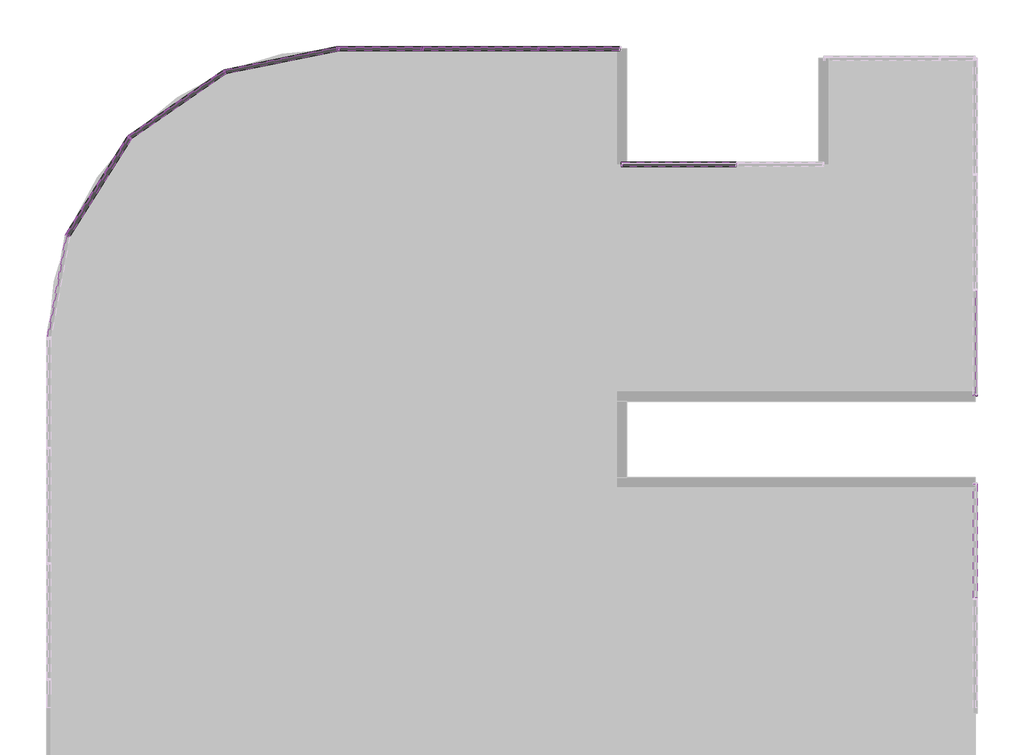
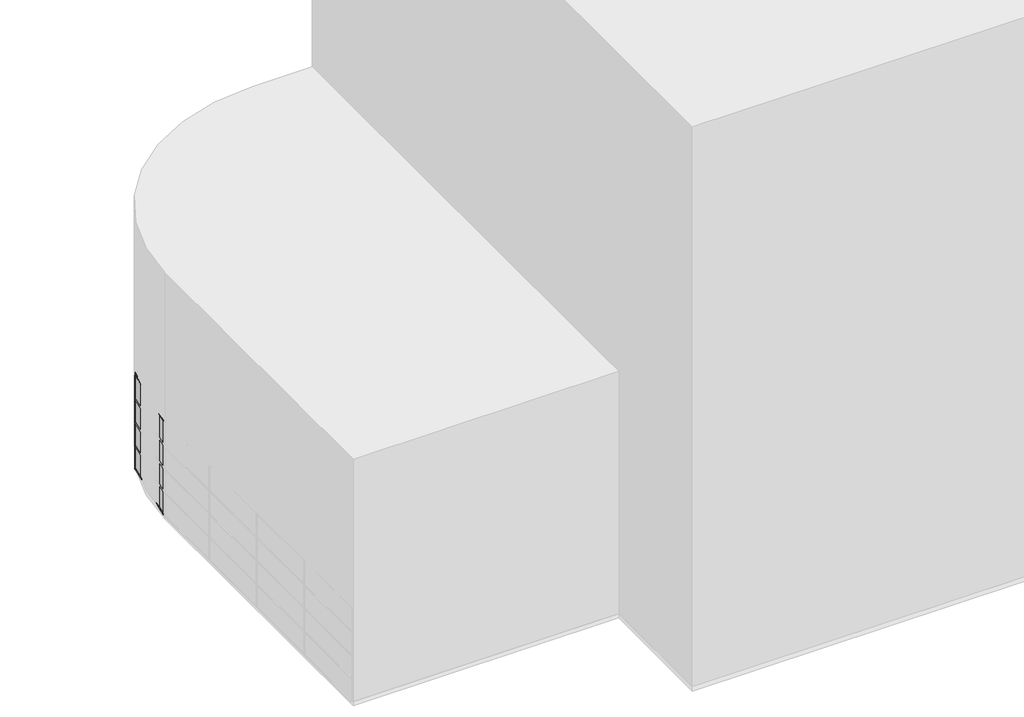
# One storey, part 3 of 4: 69 members, 35 plates.
"""IFC4 building model written with IfcOpenShell, lengths in millimetres."""

from ifc_helpers import new_model, si_unit, origin, place, context, project, spatial, transform, mapped, element, save
from components import rectangular_mullion_50_x_150mm_d99dc9be, rectangular_mullion_50_x_150mm_402ab136, rectangular_mullion_50_x_150mm_6588f46c, rectangular_mullion_50_x_150mm_c2546fd4, rectangular_mullion_50_x_150mm_55b3505a, rectangular_mullion_50_x_150mm_8b4cb4b7, rectangular_mullion_50_x_150mm_0b116d56, rectangular_mullion_50_x_150mm_6d604593, rectangular_mullion_50_x_150mm_99029072, rectangular_mullion_50_x_150mm_662445cf, rectangular_mullion_50_x_150mm_3491e2ff, rectangular_mullion_50_x_150mm_1010543a, rectangular_mullion_50_x_150mm_6b01f5a5, system_panel_glazed_ecbc047f, system_panel_glazed_459c9171, system_panel_glazed_8e9402eb, system_panel_glazed_5566c609, system_panel_glazed_6cd03a5f, system_panel_glazed_e890f31e, system_panel_glazed_ee025bb3, system_panel_glazed_18d93cd4, system_panel_glazed_0282c8a9, system_panel_glazed_e778729e, system_panel_glazed_01970cee, system_panel_glazed_f47374c1, system_panel_glazed_c3dc520e, system_panel_glazed_01c601c5

model = new_model("IFC4")

# Units and contexts
model_context = context("Model", 3, world=origin())
ifc_project = project(units=[si_unit("LENGTHUNIT", "METRE", prefix="MILLI")], contexts=[model_context])

# Site, building, storey
site = spatial("IfcSite", under=ifc_project)
building = spatial("IfcBuilding", under=site)
storey = spatial("IfcBuildingStorey", under=building, Name="Suteren", Elevation=0.0)

# Members
placement = place(None, origin())
rectangular_mullion_50_x_150mm_shape = rectangular_mullion_50_x_150mm_d99dc9be(model_context)
element("IfcMember", 1, ObjectType="Rectangular Mullion : 50 x 150mm", at=placement, inside=storey, context=model_context, shape_type="MappedRepresentation", body=[
    mapped(rectangular_mullion_50_x_150mm_shape, transform((-1587.173406, 8375.9839566, 2400.0), x_axis=(1.0, 0.0, 0.0), y_axis=(0.0, 1.0, 0.0), z_axis=(0.0, 0.0, 1.0))),
])
element("IfcMember", 2, ObjectType="Rectangular Mullion : 50 x 150mm", at=placement, inside=storey, context=model_context, shape_type="MappedRepresentation", body=[
    mapped(rectangular_mullion_50_x_150mm_shape, transform((-1587.173406, 8375.9839566, 3600.0), x_axis=(1.0, 0.0, 0.0), y_axis=(0.0, 1.0, 0.0), z_axis=(0.0, 0.0, 1.0))),
])
element("IfcMember", 3, ObjectType="Rectangular Mullion : 50 x 150mm", at=placement, inside=storey, context=model_context, shape_type="MappedRepresentation", body=[
    mapped(rectangular_mullion_50_x_150mm_shape, transform((-1587.173406, 8375.9839566, 4800.0), x_axis=(1.0, 0.0, 0.0), y_axis=(0.0, 1.0, 0.0), z_axis=(0.0, 0.0, 1.0))),
])
element("IfcMember", 4, ObjectType="Rectangular Mullion : 50 x 150mm", at=placement, inside=storey, context=model_context, shape_type="MappedRepresentation", body=[
    mapped(rectangular_mullion_50_x_150mm_shape, transform((-1587.173406, 8375.9839566, 1200.0), x_axis=(1.0, 0.0, 0.0), y_axis=(0.0, 1.0, 0.0), z_axis=(0.0, 0.0, 1.0))),
])
rectangular_mullion_50_x_150mm_2_shape = rectangular_mullion_50_x_150mm_402ab136(model_context)
element("IfcMember", 5, ObjectType="Rectangular Mullion : 50 x 150mm", at=placement, inside=storey, context=model_context, shape_type="MappedRepresentation", body=[
    mapped(rectangular_mullion_50_x_150mm_2_shape, transform((-1612.173406, 8375.9839566, 0.0), x_axis=(0.0, 0.0, -1.0), y_axis=(0.0, 1.0, 0.0), z_axis=(1.0, 0.0, 0.0))),
])
rectangular_mullion_50_x_150mm_3_shape = rectangular_mullion_50_x_150mm_6588f46c(model_context)
element("IfcMember", 6, ObjectType="Rectangular Mullion : 50 x 150mm", at=placement, inside=storey, context=model_context, shape_type="MappedRepresentation", body=[
    mapped(rectangular_mullion_50_x_150mm_3_shape, transform((13503.2660975, -3624.0160434, 4800.0), x_axis=(0.0, -1.0, 0.0), y_axis=(1.0, 0.0, 0.0), z_axis=(0.0, 0.0, 1.0))),
])
element("IfcMember", 7, ObjectType="Rectangular Mullion : 50 x 150mm", at=placement, inside=storey, context=model_context, shape_type="MappedRepresentation", body=[
    mapped(rectangular_mullion_50_x_150mm_3_shape, transform((13503.2660975, -3624.0160434, 3600.0), x_axis=(0.0, -1.0, 0.0), y_axis=(1.0, 0.0, 0.0), z_axis=(0.0, 0.0, 1.0))),
])
element("IfcMember", 8, ObjectType="Rectangular Mullion : 50 x 150mm", at=placement, inside=storey, context=model_context, shape_type="MappedRepresentation", body=[
    mapped(rectangular_mullion_50_x_150mm_3_shape, transform((13503.2660975, -3624.0160434, 2400.0), x_axis=(0.0, -1.0, 0.0), y_axis=(1.0, 0.0, 0.0), z_axis=(0.0, 0.0, 1.0))),
])
element("IfcMember", 9, ObjectType="Rectangular Mullion : 50 x 150mm", at=placement, inside=storey, context=model_context, shape_type="MappedRepresentation", body=[
    mapped(rectangular_mullion_50_x_150mm_3_shape, transform((-5587.173406, 8375.9839566, 2400.0), x_axis=(1.0, 0.0, 0.0), y_axis=(0.0, 1.0, 0.0), z_axis=(0.0, 0.0, 1.0))),
])
element("IfcMember", 10, ObjectType="Rectangular Mullion : 50 x 150mm", at=placement, inside=storey, context=model_context, shape_type="MappedRepresentation", body=[
    mapped(rectangular_mullion_50_x_150mm_3_shape, transform((-5587.173406, 8375.9839566, 3600.0), x_axis=(1.0, 0.0, 0.0), y_axis=(0.0, 1.0, 0.0), z_axis=(0.0, 0.0, 1.0))),
])
element("IfcMember", 11, ObjectType="Rectangular Mullion : 50 x 150mm", at=placement, inside=storey, context=model_context, shape_type="MappedRepresentation", body=[
    mapped(rectangular_mullion_50_x_150mm_3_shape, transform((-5587.173406, 8375.9839566, 4800.0), x_axis=(1.0, 0.0, 0.0), y_axis=(0.0, 1.0, 0.0), z_axis=(0.0, 0.0, 1.0))),
])
element("IfcMember", 12, ObjectType="Rectangular Mullion : 50 x 150mm", at=placement, inside=storey, context=model_context, shape_type="MappedRepresentation", body=[
    mapped(rectangular_mullion_50_x_150mm_3_shape, transform((-8496.7339025, 8375.9839566, 2400.0), x_axis=(0.9797958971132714, 0.1999999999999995, 0.0), y_axis=(-0.1999999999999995, 0.9797958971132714, 0.0), z_axis=(0.0, 0.0, 1.0))),
])
element("IfcMember", 13, ObjectType="Rectangular Mullion : 50 x 150mm", at=placement, inside=storey, context=model_context, shape_type="MappedRepresentation", body=[
    mapped(rectangular_mullion_50_x_150mm_3_shape, transform((-8496.7339025, 8375.9839566, 3600.0), x_axis=(0.9797958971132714, 0.1999999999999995, 0.0), y_axis=(-0.1999999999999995, 0.9797958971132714, 0.0), z_axis=(0.0, 0.0, 1.0))),
])
element("IfcMember", 14, ObjectType="Rectangular Mullion : 50 x 150mm", at=placement, inside=storey, context=model_context, shape_type="MappedRepresentation", body=[
    mapped(rectangular_mullion_50_x_150mm_3_shape, transform((-8496.7339025, 8375.9839566, 4800.0), x_axis=(0.9797958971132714, 0.1999999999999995, 0.0), y_axis=(-0.1999999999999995, 0.9797958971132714, 0.0), z_axis=(0.0, 0.0, 1.0))),
])
element("IfcMember", 15, ObjectType="Rectangular Mullion : 50 x 150mm", at=placement, inside=storey, context=model_context, shape_type="MappedRepresentation", body=[
    mapped(rectangular_mullion_50_x_150mm_3_shape, transform((13503.2660975, -3624.0160434, 1200.0), x_axis=(0.0, -1.0, 0.0), y_axis=(1.0, 0.0, 0.0), z_axis=(0.0, 0.0, 1.0))),
])
element("IfcMember", 16, ObjectType="Rectangular Mullion : 50 x 150mm", at=placement, inside=storey, context=model_context, shape_type="MappedRepresentation", body=[
    mapped(rectangular_mullion_50_x_150mm_3_shape, transform((-5587.173406, 8375.9839566, 1200.0), x_axis=(1.0, 0.0, 0.0), y_axis=(0.0, 1.0, 0.0), z_axis=(0.0, 0.0, 1.0))),
])
element("IfcMember", 17, ObjectType="Rectangular Mullion : 50 x 150mm", at=placement, inside=storey, context=model_context, shape_type="MappedRepresentation", body=[
    mapped(rectangular_mullion_50_x_150mm_3_shape, transform((-8496.7339025, 8375.9839566, 1200.0), x_axis=(0.9797958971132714, 0.1999999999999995, 0.0), y_axis=(-0.1999999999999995, 0.9797958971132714, 0.0), z_axis=(0.0, 0.0, 1.0))),
])
rectangular_mullion_50_x_150mm_4_shape = rectangular_mullion_50_x_150mm_c2546fd4(model_context)
element("IfcMember", 18, ObjectType="Rectangular Mullion : 50 x 150mm", at=placement, inside=storey, context=model_context, shape_type="MappedRepresentation", body=[
    mapped(rectangular_mullion_50_x_150mm_4_shape, transform((13503.2660975, -6674.0160434, 3600.0), x_axis=(0.0, 0.0, 1.0), y_axis=(1.0, 0.0, 0.0), z_axis=(0.0, 1.0, 0.0))),
])
element("IfcMember", 19, ObjectType="Rectangular Mullion : 50 x 150mm", at=placement, inside=storey, context=model_context, shape_type="MappedRepresentation", body=[
    mapped(rectangular_mullion_50_x_150mm_4_shape, transform((-5537.173406, 8375.9839566, 1200.0), x_axis=(0.0, 0.0, 1.0), y_axis=(0.0, 1.0, 0.0), z_axis=(-1.0, 0.0, 0.0))),
])
element("IfcMember", 20, ObjectType="Rectangular Mullion : 50 x 150mm", at=placement, inside=storey, context=model_context, shape_type="MappedRepresentation", body=[
    mapped(rectangular_mullion_50_x_150mm_4_shape, transform((-5537.173406, 8375.9839566, 2400.0), x_axis=(0.0, 0.0, 1.0), y_axis=(0.0, 1.0, 0.0), z_axis=(-1.0, 0.0, 0.0))),
])
element("IfcMember", 21, ObjectType="Rectangular Mullion : 50 x 150mm", at=placement, inside=storey, context=model_context, shape_type="MappedRepresentation", body=[
    mapped(rectangular_mullion_50_x_150mm_4_shape, transform((-5537.173406, 8375.9839566, 3600.0), x_axis=(0.0, 0.0, 1.0), y_axis=(0.0, 1.0, 0.0), z_axis=(-1.0, 0.0, 0.0))),
])
element("IfcMember", 22, ObjectType="Rectangular Mullion : 50 x 150mm", at=placement, inside=storey, context=model_context, shape_type="MappedRepresentation", body=[
    mapped(rectangular_mullion_50_x_150mm_4_shape, transform((1328.419219, 4375.9839566, 1200.0), x_axis=(0.0, 0.0, 1.0), y_axis=(0.0, 1.0, 0.0), z_axis=(-1.0, 0.0, 0.0))),
])
element("IfcMember", 23, ObjectType="Rectangular Mullion : 50 x 150mm", at=placement, inside=storey, context=model_context, shape_type="MappedRepresentation", body=[
    mapped(rectangular_mullion_50_x_150mm_4_shape, transform((1328.419219, 4375.9839566, 2400.0), x_axis=(0.0, 0.0, 1.0), y_axis=(0.0, 1.0, 0.0), z_axis=(-1.0, 0.0, 0.0))),
])
element("IfcMember", 24, ObjectType="Rectangular Mullion : 50 x 150mm", at=placement, inside=storey, context=model_context, shape_type="MappedRepresentation", body=[
    mapped(rectangular_mullion_50_x_150mm_4_shape, transform((1328.419219, 4375.9839566, 3600.0), x_axis=(0.0, 0.0, 1.0), y_axis=(0.0, 1.0, 0.0), z_axis=(-1.0, 0.0, 0.0))),
])
rectangular_mullion_50_x_150mm_5_shape = rectangular_mullion_50_x_150mm_55b3505a(model_context)
element("IfcMember", 25, ObjectType="Rectangular Mullion : 50 x 150mm", at=placement, inside=storey, context=model_context, shape_type="MappedRepresentation", body=[
    mapped(rectangular_mullion_50_x_150mm_5_shape, transform((13503.2660975, -3574.0160434, 0.0), x_axis=(0.0, 0.0, -1.0), y_axis=(1.0, 0.0, 0.0), z_axis=(0.0, -1.0, 0.0))),
])
element("IfcMember", 26, ObjectType="Rectangular Mullion : 50 x 150mm", at=placement, inside=storey, context=model_context, shape_type="MappedRepresentation", body=[
    mapped(rectangular_mullion_50_x_150mm_3_shape, transform((-5587.173406, 8375.9839566, 1200.0), x_axis=(-1.0, 0.0, 0.0), y_axis=(0.0, 1.0, 0.0), z_axis=(0.0, 0.0, -1.0))),
])
element("IfcMember", 27, ObjectType="Rectangular Mullion : 50 x 150mm", at=placement, inside=storey, context=model_context, shape_type="MappedRepresentation", body=[
    mapped(rectangular_mullion_50_x_150mm_3_shape, transform((-5587.173406, 8375.9839566, 2400.0), x_axis=(-1.0, 0.0, 0.0), y_axis=(0.0, 1.0, 0.0), z_axis=(0.0, 0.0, -1.0))),
])
element("IfcMember", 28, ObjectType="Rectangular Mullion : 50 x 150mm", at=placement, inside=storey, context=model_context, shape_type="MappedRepresentation", body=[
    mapped(rectangular_mullion_50_x_150mm_3_shape, transform((-5587.173406, 8375.9839566, 3600.0), x_axis=(-1.0, 0.0, 0.0), y_axis=(0.0, 1.0, 0.0), z_axis=(0.0, 0.0, -1.0))),
])
element("IfcMember", 29, ObjectType="Rectangular Mullion : 50 x 150mm", at=placement, inside=storey, context=model_context, shape_type="MappedRepresentation", body=[
    mapped(rectangular_mullion_50_x_150mm_3_shape, transform((1278.419219, 4375.9839566, 1200.0), x_axis=(-1.0, 0.0, 0.0), y_axis=(0.0, 1.0, 0.0), z_axis=(0.0, 0.0, -1.0))),
])
element("IfcMember", 30, ObjectType="Rectangular Mullion : 50 x 150mm", at=placement, inside=storey, context=model_context, shape_type="MappedRepresentation", body=[
    mapped(rectangular_mullion_50_x_150mm_3_shape, transform((1278.419219, 4375.9839566, 2400.0), x_axis=(-1.0, 0.0, 0.0), y_axis=(0.0, 1.0, 0.0), z_axis=(0.0, 0.0, -1.0))),
])
element("IfcMember", 31, ObjectType="Rectangular Mullion : 50 x 150mm", at=placement, inside=storey, context=model_context, shape_type="MappedRepresentation", body=[
    mapped(rectangular_mullion_50_x_150mm_3_shape, transform((1278.419219, 4375.9839566, 3600.0), x_axis=(-1.0, 0.0, 0.0), y_axis=(0.0, 1.0, 0.0), z_axis=(0.0, 0.0, -1.0))),
])
element("IfcMember", 32, ObjectType="Rectangular Mullion : 50 x 150mm", at=placement, inside=storey, context=model_context, shape_type="MappedRepresentation", body=[
    mapped(rectangular_mullion_50_x_150mm_3_shape, transform((-8496.7339025, 8375.9839566, 1200.0), x_axis=(-1.0, 0.0, 0.0), y_axis=(0.0, 1.0, 0.0), z_axis=(0.0, 0.0, -1.0))),
])
element("IfcMember", 33, ObjectType="Rectangular Mullion : 50 x 150mm", at=placement, inside=storey, context=model_context, shape_type="MappedRepresentation", body=[
    mapped(rectangular_mullion_50_x_150mm_3_shape, transform((-8496.7339025, 8375.9839566, 2400.0), x_axis=(-1.0, 0.0, 0.0), y_axis=(0.0, 1.0, 0.0), z_axis=(0.0, 0.0, -1.0))),
])
element("IfcMember", 34, ObjectType="Rectangular Mullion : 50 x 150mm", at=placement, inside=storey, context=model_context, shape_type="MappedRepresentation", body=[
    mapped(rectangular_mullion_50_x_150mm_3_shape, transform((-8496.7339025, 8375.9839566, 3600.0), x_axis=(-1.0, 0.0, 0.0), y_axis=(0.0, 1.0, 0.0), z_axis=(0.0, 0.0, -1.0))),
])
element("IfcMember", 35, ObjectType="Rectangular Mullion : 50 x 150mm", at=placement, inside=storey, context=model_context, shape_type="MappedRepresentation", body=[
    mapped(rectangular_mullion_50_x_150mm_3_shape, transform((-5587.173406, 8375.9839566, 0.0), x_axis=(-1.0, 0.0, 0.0), y_axis=(0.0, 1.0, 0.0), z_axis=(0.0, 0.0, -1.0))),
])
element("IfcMember", 36, ObjectType="Rectangular Mullion : 50 x 150mm", at=placement, inside=storey, context=model_context, shape_type="MappedRepresentation", body=[
    mapped(rectangular_mullion_50_x_150mm_3_shape, transform((1278.419219, 4375.9839566, 0.0), x_axis=(-1.0, 0.0, 0.0), y_axis=(0.0, 1.0, 0.0), z_axis=(0.0, 0.0, -1.0))),
])
element("IfcMember", 37, ObjectType="Rectangular Mullion : 50 x 150mm", at=placement, inside=storey, context=model_context, shape_type="MappedRepresentation", body=[
    mapped(rectangular_mullion_50_x_150mm_3_shape, transform((-8496.7339025, 8375.9839566, 0.0), x_axis=(-1.0, 0.0, 0.0), y_axis=(0.0, 1.0, 0.0), z_axis=(0.0, 0.0, -1.0))),
])
rectangular_mullion_50_x_150mm_6_shape = rectangular_mullion_50_x_150mm_8b4cb4b7(model_context)
element("IfcMember", 38, ObjectType="Rectangular Mullion : 50 x 150mm", at=placement, inside=storey, context=model_context, shape_type="MappedRepresentation", body=[
    mapped(rectangular_mullion_50_x_150mm_6_shape, transform((-1562.173406, 8375.9839566, 1200.0), x_axis=(0.0, 0.0, 1.0), y_axis=(0.0, 1.0, 0.0), z_axis=(-1.0, 0.0, 0.0))),
])
element("IfcMember", 39, ObjectType="Rectangular Mullion : 50 x 150mm", at=placement, inside=storey, context=model_context, shape_type="MappedRepresentation", body=[
    mapped(rectangular_mullion_50_x_150mm_6_shape, transform((-1562.173406, 8375.9839566, 2400.0), x_axis=(0.0, 0.0, 1.0), y_axis=(0.0, 1.0, 0.0), z_axis=(-1.0, 0.0, 0.0))),
])
element("IfcMember", 40, ObjectType="Rectangular Mullion : 50 x 150mm", at=placement, inside=storey, context=model_context, shape_type="MappedRepresentation", body=[
    mapped(rectangular_mullion_50_x_150mm_6_shape, transform((-1562.173406, 8375.9839566, 3600.0), x_axis=(0.0, 0.0, 1.0), y_axis=(0.0, 1.0, 0.0), z_axis=(-1.0, 0.0, 0.0))),
])
rectangular_mullion_50_x_150mm_7_shape = rectangular_mullion_50_x_150mm_0b116d56(model_context)
element("IfcMember", 41, ObjectType="Rectangular Mullion : 50 x 150mm", at=placement, inside=storey, context=model_context, shape_type="MappedRepresentation", body=[
    mapped(rectangular_mullion_50_x_150mm_7_shape, transform((-5637.173406, 8375.9839566, 0.0), x_axis=(0.0, 0.0, -1.0), y_axis=(0.0, 1.0, 0.0), z_axis=(1.0, 0.0, 0.0))),
])
rectangular_mullion_50_x_150mm_8_shape = rectangular_mullion_50_x_150mm_6d604593(model_context)
element("IfcMember", 42, ObjectType="Rectangular Mullion : 50 x 150mm", at=placement, inside=storey, context=model_context, shape_type="MappedRepresentation", body=[
    mapped(rectangular_mullion_50_x_150mm_8_shape, transform((-8446.7339025, 8375.9839566, 1200.0), x_axis=(0.0, 0.0, 1.0), y_axis=(0.0, 1.0, 0.0), z_axis=(-1.0, 0.0, 0.0))),
])
element("IfcMember", 43, ObjectType="Rectangular Mullion : 50 x 150mm", at=placement, inside=storey, context=model_context, shape_type="MappedRepresentation", body=[
    mapped(rectangular_mullion_50_x_150mm_8_shape, transform((-8446.7339025, 8375.9839566, 2400.0), x_axis=(0.0, 0.0, 1.0), y_axis=(0.0, 1.0, 0.0), z_axis=(-1.0, 0.0, 0.0))),
])
element("IfcMember", 44, ObjectType="Rectangular Mullion : 50 x 150mm", at=placement, inside=storey, context=model_context, shape_type="MappedRepresentation", body=[
    mapped(rectangular_mullion_50_x_150mm_8_shape, transform((-8446.7339025, 8375.9839566, 3600.0), x_axis=(0.0, 0.0, 1.0), y_axis=(0.0, 1.0, 0.0), z_axis=(-1.0, 0.0, 0.0))),
])
rectangular_mullion_50_x_150mm_9_shape = rectangular_mullion_50_x_150mm_99029072(model_context)
element("IfcMember", 45, ObjectType="Rectangular Mullion : 50 x 150mm", at=placement, inside=storey, context=model_context, shape_type="MappedRepresentation", body=[
    mapped(rectangular_mullion_50_x_150mm_9_shape, transform((-15687.4559914, 5318.1839566, 1200.0), x_axis=(0.0, 0.0, 1.0), y_axis=(-0.5680000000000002, 0.8230285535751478, 0.0), z_axis=(-0.8230285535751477, -0.5680000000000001, 0.0))),
])
element("IfcMember", 46, ObjectType="Rectangular Mullion : 50 x 150mm", at=placement, inside=storey, context=model_context, shape_type="MappedRepresentation", body=[
    mapped(rectangular_mullion_50_x_150mm_9_shape, transform((-17832.9738551, 1944.6319566, 1200.0), x_axis=(0.0, 0.0, 1.0), y_axis=(-0.84512, 0.534576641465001, 0.0), z_axis=(-0.534576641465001, -0.84512, 0.0))),
])
element("IfcMember", 47, ObjectType="Rectangular Mullion : 50 x 150mm", at=placement, inside=storey, context=model_context, shape_type="MappedRepresentation", body=[
    mapped(rectangular_mullion_50_x_150mm_9_shape, transform((-15687.4559914, 5318.1839566, 2400.0), x_axis=(0.0, 0.0, 1.0), y_axis=(-0.5680000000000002, 0.8230285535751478, 0.0), z_axis=(-0.8230285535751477, -0.5680000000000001, 0.0))),
])
element("IfcMember", 48, ObjectType="Rectangular Mullion : 50 x 150mm", at=placement, inside=storey, context=model_context, shape_type="MappedRepresentation", body=[
    mapped(rectangular_mullion_50_x_150mm_9_shape, transform((-17832.9738551, 1944.6319566, 2400.0), x_axis=(0.0, 0.0, 1.0), y_axis=(-0.84512, 0.534576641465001, 0.0), z_axis=(-0.534576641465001, -0.84512, 0.0))),
])
element("IfcMember", 49, ObjectType="Rectangular Mullion : 50 x 150mm", at=placement, inside=storey, context=model_context, shape_type="MappedRepresentation", body=[
    mapped(rectangular_mullion_50_x_150mm_9_shape, transform((-15687.4559914, 5318.1839566, 3600.0), x_axis=(0.0, 0.0, 1.0), y_axis=(-0.5680000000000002, 0.8230285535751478, 0.0), z_axis=(-0.8230285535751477, -0.5680000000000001, 0.0))),
])
element("IfcMember", 50, ObjectType="Rectangular Mullion : 50 x 150mm", at=placement, inside=storey, context=model_context, shape_type="MappedRepresentation", body=[
    mapped(rectangular_mullion_50_x_150mm_9_shape, transform((-17832.9738551, 1944.6319566, 3600.0), x_axis=(0.0, 0.0, 1.0), y_axis=(-0.84512, 0.534576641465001, 0.0), z_axis=(-0.534576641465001, -0.84512, 0.0))),
])
rectangular_mullion_50_x_150mm_10_shape = rectangular_mullion_50_x_150mm_662445cf(model_context)
element("IfcMember", 51, ObjectType="Rectangular Mullion : 50 x 150mm", at=placement, inside=storey, context=model_context, shape_type="MappedRepresentation", body=[
    mapped(rectangular_mullion_50_x_150mm_10_shape, transform((-12391.4225935, 7580.9839566, 2400.0), x_axis=(0.0, 0.0, 1.0), y_axis=(-0.19999999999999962, 0.9797958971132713, 0.0), z_axis=(-0.9797958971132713, -0.19999999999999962, 0.0))),
])
element("IfcMember", 52, ObjectType="Rectangular Mullion : 50 x 150mm", at=placement, inside=storey, context=model_context, shape_type="MappedRepresentation", body=[
    mapped(rectangular_mullion_50_x_150mm_10_shape, transform((-12391.4225935, 7580.9839566, 3600.0), x_axis=(0.0, 0.0, 1.0), y_axis=(-0.19999999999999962, 0.9797958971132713, 0.0), z_axis=(-0.9797958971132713, -0.19999999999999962, 0.0))),
])
element("IfcMember", 53, ObjectType="Rectangular Mullion : 50 x 150mm", at=placement, inside=storey, context=model_context, shape_type="MappedRepresentation", body=[
    mapped(rectangular_mullion_50_x_150mm_10_shape, transform((-12391.4225935, 7580.9839566, 1200.0), x_axis=(0.0, 0.0, 1.0), y_axis=(-0.19999999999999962, 0.9797958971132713, 0.0), z_axis=(-0.9797958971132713, -0.19999999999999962, 0.0))),
])
rectangular_mullion_50_x_150mm_11_shape = rectangular_mullion_50_x_150mm_3491e2ff(model_context)
element("IfcMember", 54, ObjectType="Rectangular Mullion : 50 x 150mm", at=placement, inside=storey, context=model_context, shape_type="MappedRepresentation", body=[
    mapped(rectangular_mullion_50_x_150mm_11_shape, transform((-12436.4932048, 7561.7839566, 0.0), x_axis=(0.0, 0.0, -1.0), y_axis=(-0.5680000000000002, 0.8230285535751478, 0.0), z_axis=(0.8230285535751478, 0.5680000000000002, 0.0))),
])
element("IfcMember", 55, ObjectType="Rectangular Mullion : 50 x 150mm", at=placement, inside=storey, context=model_context, shape_type="MappedRepresentation", body=[
    mapped(rectangular_mullion_50_x_150mm_11_shape, transform((-15721.3961213, 5282.8559566, 0.0), x_axis=(0.0, 0.0, -1.0), y_axis=(-0.8451199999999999, 0.5345766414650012, 0.0), z_axis=(0.5345766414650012, 0.8451199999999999, 0.0))),
])
rectangular_mullion_50_x_150mm_12_shape = rectangular_mullion_50_x_150mm_1010543a(model_context)
element("IfcMember", 56, ObjectType="Rectangular Mullion : 50 x 150mm", at=placement, inside=storey, context=model_context, shape_type="MappedRepresentation", body=[
    mapped(rectangular_mullion_50_x_150mm_12_shape, transform((-17850.8465816, 1898.9138135, 0.0), x_axis=(0.0, 0.0, -1.0), y_axis=(-0.9836057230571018, 0.18033241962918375, 0.0), z_axis=(0.18033241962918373, 0.9836057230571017, 0.0))),
])
element("IfcMember", 57, ObjectType="Rectangular Mullion : 50 x 150mm", at=placement, inside=storey, context=model_context, shape_type="MappedRepresentation", body=[
    mapped(rectangular_mullion_50_x_150mm_shape, transform((-12415.9174909, 7575.9839566, 1200.0), x_axis=(-0.92, -0.3919183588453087, 0.0), y_axis=(-0.3919183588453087, 0.92, 0.0), z_axis=(0.0, 0.0, -1.0))),
])
element("IfcMember", 58, ObjectType="Rectangular Mullion : 50 x 150mm", at=placement, inside=storey, context=model_context, shape_type="MappedRepresentation", body=[
    mapped(rectangular_mullion_50_x_150mm_shape, transform((-12415.9174909, 7575.9839566, 2400.0), x_axis=(-0.92, -0.3919183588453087, 0.0), y_axis=(-0.3919183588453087, 0.92, 0.0), z_axis=(0.0, 0.0, -1.0))),
])
element("IfcMember", 59, ObjectType="Rectangular Mullion : 50 x 150mm", at=placement, inside=storey, context=model_context, shape_type="MappedRepresentation", body=[
    mapped(rectangular_mullion_50_x_150mm_shape, transform((-12415.9174909, 7575.9839566, 3600.0), x_axis=(-0.92, -0.3919183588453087, 0.0), y_axis=(-0.3919183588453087, 0.92, 0.0), z_axis=(0.0, 0.0, -1.0))),
])
element("IfcMember", 60, ObjectType="Rectangular Mullion : 50 x 150mm", at=placement, inside=storey, context=model_context, shape_type="MappedRepresentation", body=[
    mapped(rectangular_mullion_50_x_150mm_shape, transform((-15708.0317052, 5303.9839566, 1200.0), x_axis=(-0.6928000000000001, -0.7211297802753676, 0.0), y_axis=(-0.7211297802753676, 0.6928000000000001, 0.0), z_axis=(0.0, 0.0, -1.0))),
])
element("IfcMember", 61, ObjectType="Rectangular Mullion : 50 x 150mm", at=placement, inside=storey, context=model_context, shape_type="MappedRepresentation", body=[
    mapped(rectangular_mullion_50_x_150mm_shape, transform((-15708.0317052, 5303.9839566, 2400.0), x_axis=(-0.6928000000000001, -0.7211297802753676, 0.0), y_axis=(-0.7211297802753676, 0.6928000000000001, 0.0), z_axis=(0.0, 0.0, -1.0))),
])
element("IfcMember", 62, ObjectType="Rectangular Mullion : 50 x 150mm", at=placement, inside=storey, context=model_context, shape_type="MappedRepresentation", body=[
    mapped(rectangular_mullion_50_x_150mm_shape, transform((-15708.0317052, 5303.9839566, 3600.0), x_axis=(-0.6928000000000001, -0.7211297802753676, 0.0), y_axis=(-0.7211297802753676, 0.6928000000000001, 0.0), z_axis=(0.0, 0.0, -1.0))),
])
element("IfcMember", 63, ObjectType="Rectangular Mullion : 50 x 150mm", at=placement, inside=storey, context=model_context, shape_type="MappedRepresentation", body=[
    mapped(rectangular_mullion_50_x_150mm_shape, transform((-17846.3382711, 1923.5039566, 1200.0), x_axis=(-0.35475199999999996, -0.934960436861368, 0.0), y_axis=(-0.934960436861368, 0.35475199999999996, 0.0), z_axis=(0.0, 0.0, -1.0))),
])
element("IfcMember", 64, ObjectType="Rectangular Mullion : 50 x 150mm", at=placement, inside=storey, context=model_context, shape_type="MappedRepresentation", body=[
    mapped(rectangular_mullion_50_x_150mm_shape, transform((-17846.3382711, 1923.5039566, 2400.0), x_axis=(-0.35475199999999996, -0.934960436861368, 0.0), y_axis=(-0.934960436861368, 0.35475199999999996, 0.0), z_axis=(0.0, 0.0, -1.0))),
])
element("IfcMember", 65, ObjectType="Rectangular Mullion : 50 x 150mm", at=placement, inside=storey, context=model_context, shape_type="MappedRepresentation", body=[
    mapped(rectangular_mullion_50_x_150mm_shape, transform((-17846.3382711, 1923.5039566, 3600.0), x_axis=(-0.35475199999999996, -0.934960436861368, 0.0), y_axis=(-0.934960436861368, 0.35475199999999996, 0.0), z_axis=(0.0, 0.0, -1.0))),
])
rectangular_mullion_50_x_150mm_13_shape = rectangular_mullion_50_x_150mm_6b01f5a5(model_context)
element("IfcMember", 66, ObjectType="Rectangular Mullion : 50 x 150mm", at=placement, inside=storey, context=model_context, shape_type="MappedRepresentation", body=[
    mapped(rectangular_mullion_50_x_150mm_13_shape, transform((-8545.7236973, 8365.9839566, 0.0), x_axis=(0.0, 0.0, -1.0), y_axis=(-0.19999999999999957, 0.9797958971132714, 0.0), z_axis=(0.9797958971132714, 0.19999999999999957, 0.0))),
])
element("IfcMember", 67, ObjectType="Rectangular Mullion : 50 x 150mm", at=placement, inside=storey, context=model_context, shape_type="MappedRepresentation", body=[
    mapped(rectangular_mullion_50_x_150mm_shape, transform((-12415.9174909, 7575.9839566, 0.0), x_axis=(-0.92, -0.3919183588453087, 0.0), y_axis=(-0.3919183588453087, 0.92, 0.0), z_axis=(0.0, 0.0, -1.0))),
])
element("IfcMember", 68, ObjectType="Rectangular Mullion : 50 x 150mm", at=placement, inside=storey, context=model_context, shape_type="MappedRepresentation", body=[
    mapped(rectangular_mullion_50_x_150mm_shape, transform((-15708.0317052, 5303.9839566, 0.0), x_axis=(-0.6928000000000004, -0.7211297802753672, 0.0), y_axis=(-0.7211297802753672, 0.6928000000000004, 0.0), z_axis=(0.0, 0.0, -1.0))),
])
element("IfcMember", 69, ObjectType="Rectangular Mullion : 50 x 150mm", at=placement, inside=storey, context=model_context, shape_type="MappedRepresentation", body=[
    mapped(rectangular_mullion_50_x_150mm_shape, transform((-17846.3382711, 1923.5039566, 0.0), x_axis=(-0.35475199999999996, -0.934960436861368, 0.0), y_axis=(-0.934960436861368, 0.35475199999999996, 0.0), z_axis=(0.0, 0.0, -1.0))),
])

# Plates
system_panel_glazed_shape = system_panel_glazed_ecbc047f(model_context)
element("IfcPlate", 70, ObjectType="System Panel : Glazed", at=placement, inside=storey, context=model_context, shape_type="MappedRepresentation", body=[
    mapped(system_panel_glazed_shape, transform((3290.919219, 4375.9839566, 50.0), x_axis=(1.0, 0.0, 0.0), y_axis=(0.0, 1.0, 0.0), z_axis=(0.0, 0.0, 1.0))),
])
element("IfcPlate", 71, ObjectType="System Panel : Glazed", at=placement, inside=storey, context=model_context, shape_type="MappedRepresentation", body=[
    mapped(system_panel_glazed_shape, transform((-3574.673406, 8375.9839566, 50.0), x_axis=(1.0, 0.0, 0.0), y_axis=(0.0, 1.0, 0.0), z_axis=(0.0, 0.0, 1.0))),
])
system_panel_glazed_2_shape = system_panel_glazed_459c9171(model_context)
element("IfcPlate", 72, ObjectType="System Panel : Glazed", at=placement, inside=storey, context=model_context, shape_type="MappedRepresentation", body=[
    mapped(system_panel_glazed_2_shape, transform((13503.2660975, -1779.830251, 50.0), x_axis=(0.0, -1.0, 0.0), y_axis=(1.0, 0.0, 0.0), z_axis=(0.0, 0.0, 1.0))),
])
system_panel_glazed_3_shape = system_panel_glazed_8e9402eb(model_context)
element("IfcPlate", 73, ObjectType="System Panel : Glazed", at=placement, inside=storey, context=model_context, shape_type="MappedRepresentation", body=[
    mapped(system_panel_glazed_3_shape, transform((3290.919219, 4375.9839566, 1225.0), x_axis=(1.0, 0.0, 0.0), y_axis=(0.0, 1.0, 0.0), z_axis=(0.0, 0.0, 1.0))),
])
element("IfcPlate", 74, ObjectType="System Panel : Glazed", at=placement, inside=storey, context=model_context, shape_type="MappedRepresentation", body=[
    mapped(system_panel_glazed_3_shape, transform((3290.919219, 4375.9839566, 2425.0), x_axis=(1.0, 0.0, 0.0), y_axis=(0.0, 1.0, 0.0), z_axis=(0.0, 0.0, 1.0))),
])
element("IfcPlate", 75, ObjectType="System Panel : Glazed", at=placement, inside=storey, context=model_context, shape_type="MappedRepresentation", body=[
    mapped(system_panel_glazed_3_shape, transform((-3574.673406, 8375.9839566, 1225.0), x_axis=(1.0, 0.0, 0.0), y_axis=(0.0, 1.0, 0.0), z_axis=(0.0, 0.0, 1.0))),
])
element("IfcPlate", 76, ObjectType="System Panel : Glazed", at=placement, inside=storey, context=model_context, shape_type="MappedRepresentation", body=[
    mapped(system_panel_glazed_3_shape, transform((-3574.673406, 8375.9839566, 2425.0), x_axis=(1.0, 0.0, 0.0), y_axis=(0.0, 1.0, 0.0), z_axis=(0.0, 0.0, 1.0))),
])
element("IfcPlate", 77, ObjectType="System Panel : Glazed", at=placement, inside=storey, context=model_context, shape_type="MappedRepresentation", body=[
    mapped(system_panel_glazed_3_shape, transform((-3574.673406, 8375.9839566, 3625.0), x_axis=(1.0, 0.0, 0.0), y_axis=(0.0, 1.0, 0.0), z_axis=(0.0, 0.0, 1.0))),
])
system_panel_glazed_4_shape = system_panel_glazed_5566c609(model_context)
element("IfcPlate", 78, ObjectType="System Panel : Glazed", at=placement, inside=storey, context=model_context, shape_type="MappedRepresentation", body=[
    mapped(system_panel_glazed_4_shape, transform((13503.2660975, -1779.830251, 1225.0), x_axis=(0.0, -1.0, 0.0), y_axis=(1.0, 0.0, 0.0), z_axis=(0.0, 0.0, 1.0))),
])
element("IfcPlate", 79, ObjectType="System Panel : Glazed", at=placement, inside=storey, context=model_context, shape_type="MappedRepresentation", body=[
    mapped(system_panel_glazed_4_shape, transform((13503.2660975, -1779.830251, 2425.0), x_axis=(0.0, -1.0, 0.0), y_axis=(1.0, 0.0, 0.0), z_axis=(0.0, 0.0, 1.0))),
])
element("IfcPlate", 80, ObjectType="System Panel : Glazed", at=placement, inside=storey, context=model_context, shape_type="MappedRepresentation", body=[
    mapped(system_panel_glazed_4_shape, transform((13503.2660975, -1779.830251, 3625.0), x_axis=(0.0, -1.0, 0.0), y_axis=(1.0, 0.0, 0.0), z_axis=(0.0, 0.0, 1.0))),
])
system_panel_glazed_5_shape = system_panel_glazed_6cd03a5f(model_context)
element("IfcPlate", 81, ObjectType="System Panel : Glazed", at=placement, inside=storey, context=model_context, shape_type="MappedRepresentation", body=[
    mapped(system_panel_glazed_5_shape, transform((-166.8770935, 8375.9839566, 50.0), x_axis=(1.0, 0.0, 0.0), y_axis=(0.0, 1.0, 0.0), z_axis=(0.0, 0.0, 1.0))),
])
system_panel_glazed_6_shape = system_panel_glazed_e890f31e(model_context)
element("IfcPlate", 82, ObjectType="System Panel : Glazed", at=placement, inside=storey, context=model_context, shape_type="MappedRepresentation", body=[
    mapped(system_panel_glazed_6_shape, transform((-166.8770935, 8375.9839566, 1225.0), x_axis=(1.0, 0.0, 0.0), y_axis=(0.0, 1.0, 0.0), z_axis=(0.0, 0.0, 1.0))),
])
element("IfcPlate", 83, ObjectType="System Panel : Glazed", at=placement, inside=storey, context=model_context, shape_type="MappedRepresentation", body=[
    mapped(system_panel_glazed_6_shape, transform((-166.8770935, 8375.9839566, 2425.0), x_axis=(1.0, 0.0, 0.0), y_axis=(0.0, 1.0, 0.0), z_axis=(0.0, 0.0, 1.0))),
])
element("IfcPlate", 84, ObjectType="System Panel : Glazed", at=placement, inside=storey, context=model_context, shape_type="MappedRepresentation", body=[
    mapped(system_panel_glazed_6_shape, transform((-166.8770935, 8375.9839566, 3625.0), x_axis=(1.0, 0.0, 0.0), y_axis=(0.0, 1.0, 0.0), z_axis=(0.0, 0.0, 1.0))),
])
system_panel_glazed_7_shape = system_panel_glazed_ee025bb3(model_context)
element("IfcPlate", 85, ObjectType="System Panel : Glazed", at=placement, inside=storey, context=model_context, shape_type="MappedRepresentation", body=[
    mapped(system_panel_glazed_7_shape, transform((-7041.9536543, 8375.9839566, 50.0), x_axis=(1.0, 0.0, 0.0), y_axis=(0.0, 1.0, 0.0), z_axis=(0.0, 0.0, 1.0))),
])
system_panel_glazed_8_shape = system_panel_glazed_18d93cd4(model_context)
element("IfcPlate", 86, ObjectType="System Panel : Glazed", at=placement, inside=storey, context=model_context, shape_type="MappedRepresentation", body=[
    mapped(system_panel_glazed_8_shape, transform((-7041.9536543, 8375.9839566, 1225.0), x_axis=(1.0, 0.0, 0.0), y_axis=(0.0, 1.0, 0.0), z_axis=(0.0, 0.0, 1.0))),
])
element("IfcPlate", 87, ObjectType="System Panel : Glazed", at=placement, inside=storey, context=model_context, shape_type="MappedRepresentation", body=[
    mapped(system_panel_glazed_8_shape, transform((-7041.9536543, 8375.9839566, 2425.0), x_axis=(1.0, 0.0, 0.0), y_axis=(0.0, 1.0, 0.0), z_axis=(0.0, 0.0, 1.0))),
])
element("IfcPlate", 88, ObjectType="System Panel : Glazed", at=placement, inside=storey, context=model_context, shape_type="MappedRepresentation", body=[
    mapped(system_panel_glazed_8_shape, transform((-7041.9536543, 8375.9839566, 3625.0), x_axis=(1.0, 0.0, 0.0), y_axis=(0.0, 1.0, 0.0), z_axis=(0.0, 0.0, 1.0))),
])
system_panel_glazed_9_shape = system_panel_glazed_0282c8a9(model_context)
element("IfcPlate", 89, ObjectType="System Panel : Glazed", at=placement, inside=storey, context=model_context, shape_type="MappedRepresentation", body=[
    mapped(system_panel_glazed_9_shape, transform((-10468.5731454, 7973.4839566, 50.0), x_axis=(-0.9797958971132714, -0.1999999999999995, 0.0), y_axis=(0.1999999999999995, -0.9797958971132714, 0.0), z_axis=(0.0, 0.0, 1.0))),
])
system_panel_glazed_10_shape = system_panel_glazed_e778729e(model_context)
element("IfcPlate", 90, ObjectType="System Panel : Glazed", at=placement, inside=storey, context=model_context, shape_type="MappedRepresentation", body=[
    mapped(system_panel_glazed_10_shape, transform((-14061.9745981, 6439.9839566, 50.0), x_axis=(-0.8230285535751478, -0.5680000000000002, 0.0), y_axis=(0.5680000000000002, -0.8230285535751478, 0.0), z_axis=(0.0, 0.0, 1.0))),
])
element("IfcPlate", 91, ObjectType="System Panel : Glazed", at=placement, inside=storey, context=model_context, shape_type="MappedRepresentation", body=[
    mapped(system_panel_glazed_10_shape, transform((-16777.1849882, 3613.7439566, 50.0), x_axis=(-0.5345766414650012, -0.8451199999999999, 0.0), y_axis=(0.8451199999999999, -0.5345766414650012, 0.0), z_axis=(0.0, 0.0, 1.0))),
])
system_panel_glazed_11_shape = system_panel_glazed_01970cee(model_context)
element("IfcPlate", 92, ObjectType="System Panel : Glazed", at=placement, inside=storey, context=model_context, shape_type="MappedRepresentation", body=[
    mapped(system_panel_glazed_11_shape, transform((-18169.2819315, 162.0390281, 50.0), x_axis=(-0.18033241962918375, -0.9836057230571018, 0.0), y_axis=(0.9836057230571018, -0.18033241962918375, 0.0), z_axis=(0.0, 0.0, 1.0))),
])
system_panel_glazed_12_shape = system_panel_glazed_f47374c1(model_context)
element("IfcPlate", 93, ObjectType="System Panel : Glazed", at=placement, inside=storey, context=model_context, shape_type="MappedRepresentation", body=[
    mapped(system_panel_glazed_12_shape, transform((-10468.5731454, 7973.4839566, 1225.0), x_axis=(-0.9797958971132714, -0.1999999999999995, 0.0), y_axis=(0.1999999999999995, -0.9797958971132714, 0.0), z_axis=(0.0, 0.0, 1.0))),
])
element("IfcPlate", 94, ObjectType="System Panel : Glazed", at=placement, inside=storey, context=model_context, shape_type="MappedRepresentation", body=[
    mapped(system_panel_glazed_12_shape, transform((-10468.5731454, 7973.4839566, 2425.0), x_axis=(-0.9797958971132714, -0.1999999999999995, 0.0), y_axis=(0.1999999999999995, -0.9797958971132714, 0.0), z_axis=(0.0, 0.0, 1.0))),
])
element("IfcPlate", 95, ObjectType="System Panel : Glazed", at=placement, inside=storey, context=model_context, shape_type="MappedRepresentation", body=[
    mapped(system_panel_glazed_12_shape, transform((-10468.5731454, 7973.4839566, 3625.0), x_axis=(-0.9797958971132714, -0.1999999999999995, 0.0), y_axis=(0.1999999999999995, -0.9797958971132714, 0.0), z_axis=(0.0, 0.0, 1.0))),
])
system_panel_glazed_13_shape = system_panel_glazed_c3dc520e(model_context)
element("IfcPlate", 96, ObjectType="System Panel : Glazed", at=placement, inside=storey, context=model_context, shape_type="MappedRepresentation", body=[
    mapped(system_panel_glazed_13_shape, transform((-14061.9745981, 6439.9839566, 1225.0), x_axis=(-0.8230285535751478, -0.5680000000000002, 0.0), y_axis=(0.5680000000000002, -0.8230285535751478, 0.0), z_axis=(0.0, 0.0, 1.0))),
])
element("IfcPlate", 97, ObjectType="System Panel : Glazed", at=placement, inside=storey, context=model_context, shape_type="MappedRepresentation", body=[
    mapped(system_panel_glazed_13_shape, transform((-16777.1849882, 3613.7439566, 1225.0), x_axis=(-0.5345766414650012, -0.8451199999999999, 0.0), y_axis=(0.8451199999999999, -0.5345766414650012, 0.0), z_axis=(0.0, 0.0, 1.0))),
])
element("IfcPlate", 98, ObjectType="System Panel : Glazed", at=placement, inside=storey, context=model_context, shape_type="MappedRepresentation", body=[
    mapped(system_panel_glazed_13_shape, transform((-14061.9745981, 6439.9839566, 2425.0), x_axis=(-0.8230285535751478, -0.5680000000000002, 0.0), y_axis=(0.5680000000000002, -0.8230285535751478, 0.0), z_axis=(0.0, 0.0, 1.0))),
])
element("IfcPlate", 99, ObjectType="System Panel : Glazed", at=placement, inside=storey, context=model_context, shape_type="MappedRepresentation", body=[
    mapped(system_panel_glazed_13_shape, transform((-16777.1849882, 3613.7439566, 2425.0), x_axis=(-0.5345766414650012, -0.8451199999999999, 0.0), y_axis=(0.8451199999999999, -0.5345766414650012, 0.0), z_axis=(0.0, 0.0, 1.0))),
])
element("IfcPlate", 100, ObjectType="System Panel : Glazed", at=placement, inside=storey, context=model_context, shape_type="MappedRepresentation", body=[
    mapped(system_panel_glazed_13_shape, transform((-14061.9745981, 6439.9839566, 3625.0), x_axis=(-0.8230285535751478, -0.5680000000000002, 0.0), y_axis=(0.5680000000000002, -0.8230285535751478, 0.0), z_axis=(0.0, 0.0, 1.0))),
])
element("IfcPlate", 101, ObjectType="System Panel : Glazed", at=placement, inside=storey, context=model_context, shape_type="MappedRepresentation", body=[
    mapped(system_panel_glazed_13_shape, transform((-16777.1849882, 3613.7439566, 3625.0), x_axis=(-0.5345766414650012, -0.8451199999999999, 0.0), y_axis=(0.8451199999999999, -0.5345766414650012, 0.0), z_axis=(0.0, 0.0, 1.0))),
])
system_panel_glazed_14_shape = system_panel_glazed_01c601c5(model_context)
element("IfcPlate", 102, ObjectType="System Panel : Glazed", at=placement, inside=storey, context=model_context, shape_type="MappedRepresentation", body=[
    mapped(system_panel_glazed_14_shape, transform((-18169.2819315, 162.0390281, 1225.0), x_axis=(-0.18033241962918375, -0.9836057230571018, 0.0), y_axis=(0.9836057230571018, -0.18033241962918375, 0.0), z_axis=(0.0, 0.0, 1.0))),
])
element("IfcPlate", 103, ObjectType="System Panel : Glazed", at=placement, inside=storey, context=model_context, shape_type="MappedRepresentation", body=[
    mapped(system_panel_glazed_14_shape, transform((-18169.2819315, 162.0390281, 2425.0), x_axis=(-0.18033241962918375, -0.9836057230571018, 0.0), y_axis=(0.9836057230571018, -0.18033241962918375, 0.0), z_axis=(0.0, 0.0, 1.0))),
])
element("IfcPlate", 104, ObjectType="System Panel : Glazed", at=placement, inside=storey, context=model_context, shape_type="MappedRepresentation", body=[
    mapped(system_panel_glazed_14_shape, transform((-18169.2819315, 162.0390281, 3625.0), x_axis=(-0.18033241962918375, -0.9836057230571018, 0.0), y_axis=(0.9836057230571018, -0.18033241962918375, 0.0), z_axis=(0.0, 0.0, 1.0))),
])

save(model, "model.ifc")
